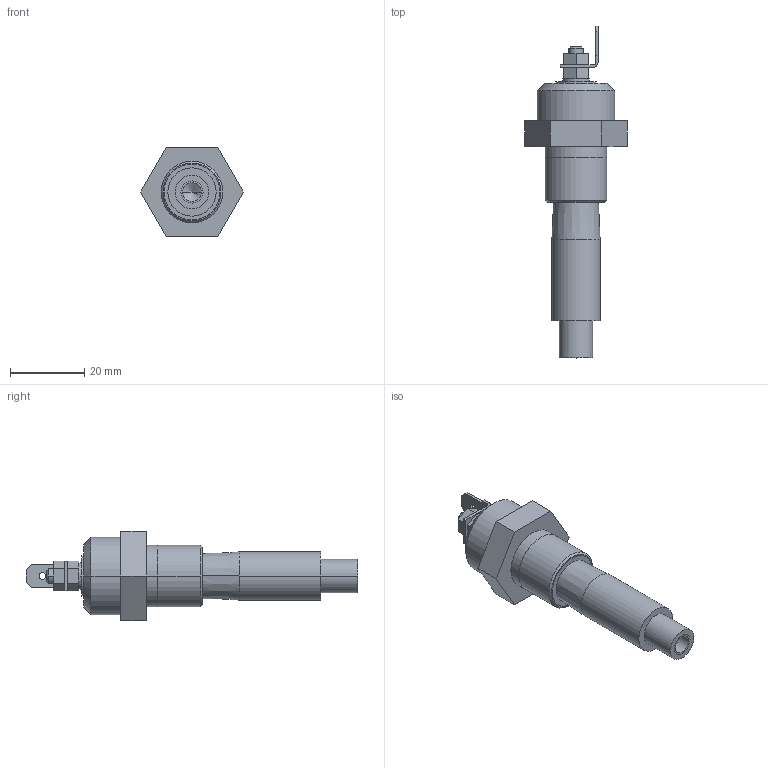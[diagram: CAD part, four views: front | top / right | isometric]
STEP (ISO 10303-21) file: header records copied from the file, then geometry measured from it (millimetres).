
FILE_DESCRIPTION((''),'2;1');
FILE_NAME('CAT_I_390','2024-09-30T09:22:12',('LGZ'),(''),'CREO PARAMETRIC BY PTC INC, 2023072','CREO PARAMETRIC BY PTC INC, 2023072','');
FILE_SCHEMA(('AUTOMOTIVE_DESIGN { 1 0 10303 214 1 1 1 1 }'));
Length unit declared in the file: millimetre
Products named in the file (1): CAT_I_390
Bounding box: 27.71 x 89.5 x 24 mm (x, y, z)
Volume: 15012.7 mm3; surface area: 6044.9 mm2
Topology: 1 solids, 3 shells, 89 faces, 210 edges, 133 vertices
Faces by surface type: plane 55, cylinder 24, cone 10
Entity records: 2720 total; most frequent: DIRECTION 460, CARTESIAN_POINT 433, ORIENTED_EDGE 408, EDGE_CURVE 208, AXIS2_PLACEMENT_3D 162, VECTOR 136, LINE 136, VERTEX_POINT 133
